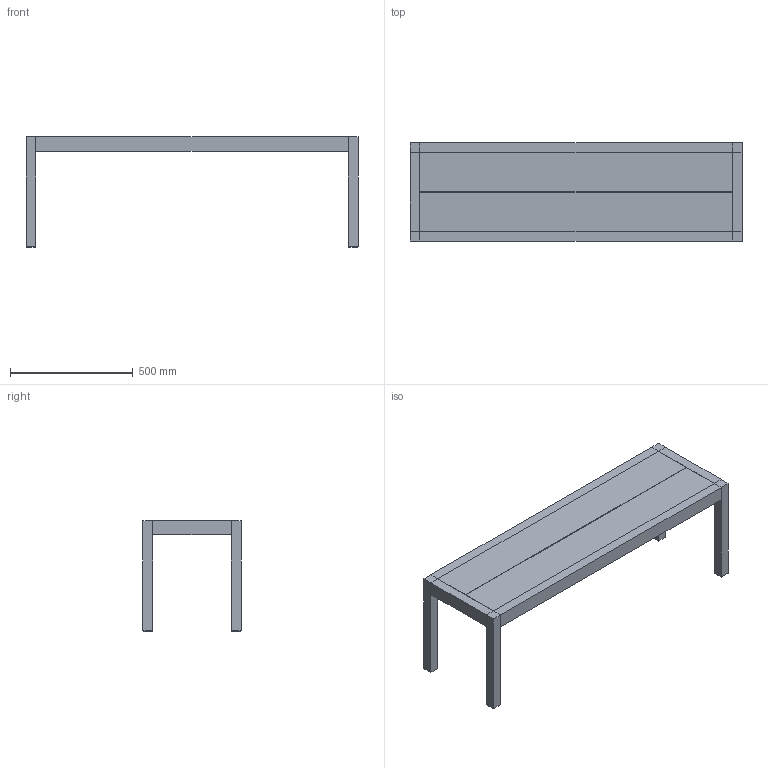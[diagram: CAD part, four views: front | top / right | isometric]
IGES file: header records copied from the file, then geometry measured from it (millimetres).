
Global section: file name: C:\Users\Timo Mikkonen\Desktop\Nikari 3d. tiedostot rfa\STOOLS & BENCHES\iges\Seminar Bench 1350.igs; native system: Rhinoceros ( Sep  8 2025 ); preprocessor: Trout Lake IGES 012 Sep  8 2025; date: 251022.075905; units: millimetre
Bounding box: 1350 x 400 x 450 mm (x, y, z)
Surface area: 1873975.6 mm2 (no closed solid volume)
Topology: 0 solids, 0 shells, 76 faces, 560 edges, 560 vertices
Faces by surface type: bspline 76
